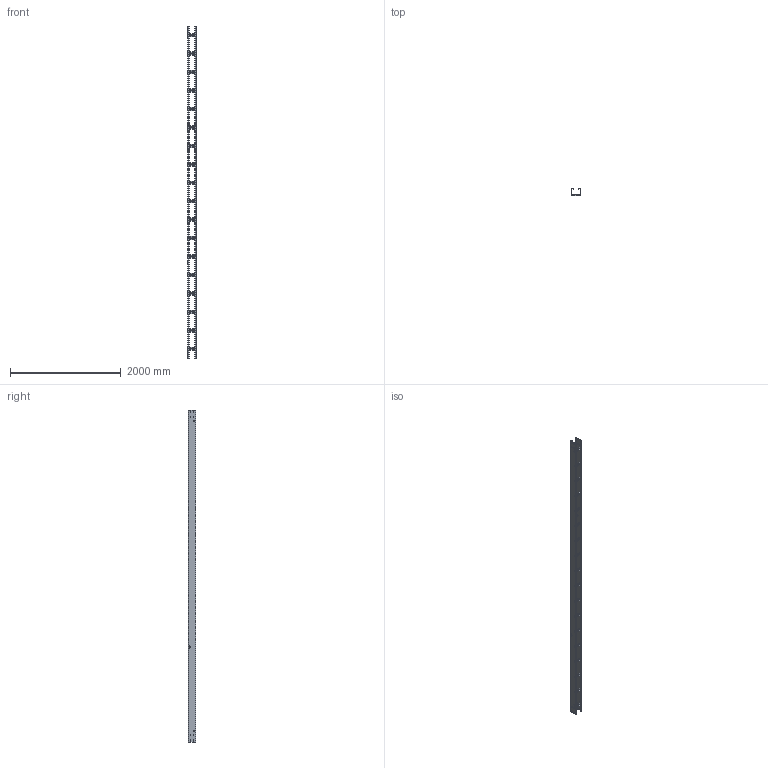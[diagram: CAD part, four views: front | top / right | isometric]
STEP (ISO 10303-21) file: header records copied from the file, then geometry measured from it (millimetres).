
FILE_DESCRIPTION (( 'STEP AP203' ), '1' );
FILE_NAME ('N3 LR 150 6m.STEP', '2024-08-29T04:03:57', ( '' ), ( '' ), 'SwSTEP 2.0', 'SolidWorks 2023', '' );
FILE_SCHEMA (( 'CONFIG_CONTROL_DESIGN' ));
Length unit declared in the file: millimetre
Products named in the file (3): N3 LR 150 6m; Ladder Rails_Nema 3Rev - 6m; Ladder Rung_Ladder Rung -  150mm
Assembly tree (20 placements, depth 2):
  N3 LR 150 6m
    Ladder Rails_Nema 3Rev - 6m  x2
    Ladder Rung_Ladder Rung -  150mm  x18
Bounding box: 153.2 x 131 x 6000 mm (x, y, z)
Volume: 3926756.2 mm3; surface area: 4972719.8 mm2
Topology: 20 solids, 20 shells, 1588 faces, 3954 edges, 2428 vertices
Faces by surface type: plane 1306, cylinder 196, bspline 86
Entity records: 11252 total; most frequent: CARTESIAN_POINT 4043, ORIENTED_EDGE 1394, DIRECTION 1171, EDGE_CURVE 697, LINE 543, VECTOR 543, VERTEX_POINT 446, AXIS2_PLACEMENT_3D 314
